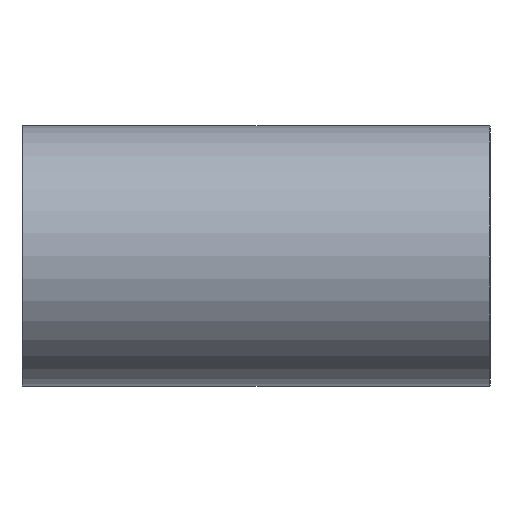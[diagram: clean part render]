
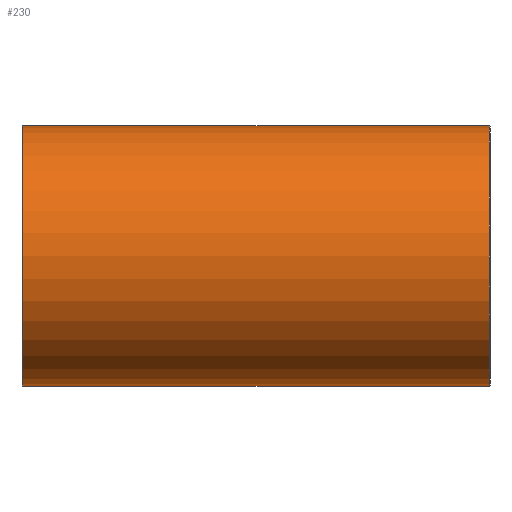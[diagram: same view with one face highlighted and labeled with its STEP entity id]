
A CAD part, front view. The second image highlights one B-rep face of the part: STEP entity #230.
In plain terms, the highlighted cylindrical face has radius 30.65 mm (diameter 61.3 mm), a full revolution.
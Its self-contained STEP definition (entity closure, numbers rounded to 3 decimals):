
#73=CARTESIAN_POINT('',(54.8,30.65,0.));
#74=VERTEX_POINT('',#73);
#75=CARTESIAN_POINT('',(54.8,0.0,0.0));
#76=DIRECTION('',(1.0,0.0,0.0));
#77=DIRECTION('',(0.0,-1.0,0.0));
#78=AXIS2_PLACEMENT_3D('',#75,#76,#77);
#79=CIRCLE('',#78,30.65);
#80=EDGE_CURVE('',#74,#74,#79,.T.);
#116=CARTESIAN_POINT('',(0.0,0.0,0.0));
#117=DIRECTION('',(1.0,0.0,0.0));
#118=DIRECTION('',(0.0,1.0,0.0));
#119=AXIS2_PLACEMENT_3D('',#116,#117,#118);
#120=CYLINDRICAL_SURFACE('',#119,30.65);
#121=CARTESIAN_POINT('',(-54.8,30.65,0.));
#122=VERTEX_POINT('',#121);
#123=CARTESIAN_POINT('',(-54.8,0.0,0.0));
#124=DIRECTION('',(-1.0,0.0,0.0));
#125=DIRECTION('',(0.0,-1.0,0.0));
#126=AXIS2_PLACEMENT_3D('',#123,#124,#125);
#127=CIRCLE('',#126,30.65);
#128=EDGE_CURVE('',#122,#122,#127,.T.);
#129=ORIENTED_EDGE('',*,*,#128,.F.);
#130=EDGE_LOOP('',(#129));
#131=FACE_OUTER_BOUND('',#130,.T.);
#132=CARTESIAN_POINT('',(0.,18.47,24.46));
#133=VERTEX_POINT('',#132);
#134=CARTESIAN_POINT('',(0.,18.47,24.46));
#135=CARTESIAN_POINT('',(0.,18.47,24.46));
#136=CARTESIAN_POINT('',(0.,18.47,24.46));
#137=CARTESIAN_POINT('',(0.,18.47,24.46));
#138=CARTESIAN_POINT('',(0.842,18.47,24.46));
#139=CARTESIAN_POINT('',(1.966,18.527,24.417));
#140=CARTESIAN_POINT('',(3.629,18.721,24.268));
#141=CARTESIAN_POINT('',(4.994,18.946,24.094));
#142=CARTESIAN_POINT('',(6.466,19.277,23.83));
#143=CARTESIAN_POINT('',(7.51,19.562,23.596));
#144=CARTESIAN_POINT('',(8.538,19.87,23.338));
#145=CARTESIAN_POINT('',(10.167,20.408,22.876));
#146=CARTESIAN_POINT('',(13.029,21.549,21.829));
#147=CARTESIAN_POINT('',(15.665,22.837,20.478));
#148=CARTESIAN_POINT('',(17.691,23.922,19.171));
#149=CARTESIAN_POINT('',(18.854,24.571,18.333));
#150=CARTESIAN_POINT('',(20.328,25.421,17.151));
#151=CARTESIAN_POINT('',(22.052,26.46,15.53));
#152=CARTESIAN_POINT('',(23.586,27.426,13.73));
#153=CARTESIAN_POINT('',(24.682,28.131,12.191));
#154=CARTESIAN_POINT('',(25.683,28.785,10.592));
#155=CARTESIAN_POINT('',(26.655,29.432,8.67));
#156=CARTESIAN_POINT('',(27.325,29.883,6.864));
#157=CARTESIAN_POINT('',(27.873,30.255,5.022));
#158=CARTESIAN_POINT('',(28.316,30.558,2.899));
#159=CARTESIAN_POINT('',(28.475,30.668,0.597));
#160=CARTESIAN_POINT('',(28.437,30.641,-0.85));
#161=CARTESIAN_POINT('',(28.379,30.601,-1.816));
#162=CARTESIAN_POINT('',(28.216,30.489,-3.381));
#163=CARTESIAN_POINT('',(27.723,30.153,-5.737));
#164=CARTESIAN_POINT('',(26.974,29.646,-7.859));
#165=CARTESIAN_POINT('',(25.92,28.942,-10.183));
#166=CARTESIAN_POINT('',(24.271,27.855,-12.995));
#167=CARTESIAN_POINT('',(22.123,26.499,-15.477));
#168=CARTESIAN_POINT('',(20.572,25.572,-16.899));
#169=CARTESIAN_POINT('',(19.938,25.198,-17.454));
#170=CARTESIAN_POINT('',(18.562,24.398,-18.589));
#171=CARTESIAN_POINT('',(16.892,23.479,-19.727));
#172=CARTESIAN_POINT('',(14.632,22.336,-21.003));
#173=CARTESIAN_POINT('',(12.851,21.499,-21.86));
#174=CARTESIAN_POINT('',(10.657,20.6,-22.703));
#175=CARTESIAN_POINT('',(9.011,20.016,-23.214));
#176=CARTESIAN_POINT('',(7.308,19.496,-23.653));
#177=CARTESIAN_POINT('',(5.909,19.14,-23.941));
#178=CARTESIAN_POINT('',(3.385,18.645,-24.329));
#179=CARTESIAN_POINT('',(0.016,18.331,-24.563));
#180=CARTESIAN_POINT('',(-3.917,18.693,-24.294));
#181=CARTESIAN_POINT('',(-6.763,19.339,-23.783));
#182=CARTESIAN_POINT('',(-8.828,19.951,-23.271));
#183=CARTESIAN_POINT('',(-10.652,20.598,-22.704));
#184=CARTESIAN_POINT('',(-12.388,21.309,-22.037));
#185=CARTESIAN_POINT('',(-13.589,21.851,-21.496));
#186=CARTESIAN_POINT('',(-14.767,22.407,-20.918));
#187=CARTESIAN_POINT('',(-16.625,23.332,-19.908));
#188=CARTESIAN_POINT('',(-18.746,24.499,-18.464));
#189=CARTESIAN_POINT('',(-20.557,25.56,-16.932));
#190=CARTESIAN_POINT('',(-21.463,26.107,-16.064));
#191=CARTESIAN_POINT('',(-22.772,26.91,-14.715));
#192=CARTESIAN_POINT('',(-24.078,27.738,-13.128));
#193=CARTESIAN_POINT('',(-25.356,28.571,-11.131));
#194=CARTESIAN_POINT('',(-25.961,28.971,-10.02));
#195=CARTESIAN_POINT('',(-26.519,29.342,-8.885));
#196=CARTESIAN_POINT('',(-27.084,29.721,-7.567));
#197=CARTESIAN_POINT('',(-27.787,30.196,-5.43));
#198=CARTESIAN_POINT('',(-28.182,30.467,-3.542));
#199=CARTESIAN_POINT('',(-28.405,30.619,-1.624));
#200=CARTESIAN_POINT('',(-28.48,30.67,-0.009));
#201=CARTESIAN_POINT('',(-28.392,30.61,1.92));
#202=CARTESIAN_POINT('',(-28.127,30.429,3.841));
#203=CARTESIAN_POINT('',(-27.801,30.206,5.246));
#204=CARTESIAN_POINT('',(-27.443,29.964,6.474));
#205=CARTESIAN_POINT('',(-27.032,29.685,7.687));
#206=CARTESIAN_POINT('',(-26.089,29.053,9.896));
#207=CARTESIAN_POINT('',(-24.795,28.201,12.098));
#208=CARTESIAN_POINT('',(-23.282,27.233,14.095));
#209=CARTESIAN_POINT('',(-21.508,26.126,16.101));
#210=CARTESIAN_POINT('',(-19.61,24.992,17.791));
#211=CARTESIAN_POINT('',(-17.665,23.908,19.188));
#212=CARTESIAN_POINT('',(-16.452,23.259,19.969));
#213=CARTESIAN_POINT('',(-14.779,22.405,20.932));
#214=CARTESIAN_POINT('',(-12.554,21.36,22.003));
#215=CARTESIAN_POINT('',(-10.163,20.406,22.877));
#216=CARTESIAN_POINT('',(-8.16,19.745,23.446));
#217=CARTESIAN_POINT('',(-6.082,19.162,23.926));
#218=CARTESIAN_POINT('',(-3.911,18.732,24.261));
#219=CARTESIAN_POINT('',(-1.687,18.508,24.431));
#220=CARTESIAN_POINT('',(-0.561,18.47,24.46));
#221=CARTESIAN_POINT('',(0.,18.47,24.46));
#222=B_SPLINE_CURVE_WITH_KNOTS('',3,(#134,#135,#136,#137,#138,#139,#140,#141,#142,#143,#144,#145,#146,#147,#148,#149,#150,#151,#152,#153,#154,#155,#156,#157,#158,#159,#160,#161,#162,#163,#164,#165,#166,#167,#168,#169,#170,#171,#172,#173,#174,#175,#176,#177,#178,#179,#180,#181,#182,#183,#184,#185,#186,#187,#188,#189,#190,#191,#192,#193,#194,#195,#196,#197,#198,#199,#200,#201,#202,#203,#204,#205,#206,#207,#208,#209,#210,#211,#212,#213,#214,#215,#216,#217,#218,#219,#220,#221),.UNSPECIFIED.,.T.,.U.,(4,3,1,1,1,1,1,1,1,1,1,1,1,1,1,1,1,1,1,1,1,1,1,1,1,1,1,1,1,1,1,1,1,1,1,1,1,1,1,1,1,1,1,1,1,1,1,1,1,1,1,1,1,1,1,1,1,1,1,1,1,1,1,1,1,1,1,1,1,1,1,1,1,1,1,1,1,1,1,1,1,1,1,4),(-15.01,-15.01,-14.809,-14.742,-14.608,-14.474,-14.374,-14.34,-14.206,-13.938,-13.536,-13.402,-13.268,-13.134,-12.866,-12.598,-12.464,-12.33,-12.062,-11.861,-11.794,-11.526,-11.258,-11.157,-11.124,-10.99,-10.722,-10.454,-10.364,-10.007,-9.53,-9.441,-9.411,-9.292,-8.935,-8.845,-8.577,-8.399,-8.22,-8.131,-7.952,-7.863,-7.505,-7.148,-6.924,-6.79,-6.612,-6.433,-6.299,-6.254,-6.076,-5.718,-5.54,-5.406,-5.361,-5.003,-4.825,-4.691,-4.646,-4.467,-4.289,-4.021,-3.931,-3.753,-3.574,-3.395,-3.217,-3.172,-3.038,-2.859,-2.502,-2.323,-2.144,-1.742,-1.608,-1.474,-1.34,-1.072,-0.804,-0.67,-0.536,-0.268,-0.134,0.),.UNSPECIFIED.);
#223=EDGE_CURVE('',#133,#133,#222,.T.);
#224=ORIENTED_EDGE('',*,*,#223,.F.);
#225=EDGE_LOOP('',(#224));
#226=FACE_BOUND('',#225,.T.);
#227=ORIENTED_EDGE('',*,*,#80,.F.);
#228=EDGE_LOOP('',(#227));
#229=FACE_BOUND('',#228,.T.);
#230=ADVANCED_FACE('',(#131,#226,#229),#120,.T.);
